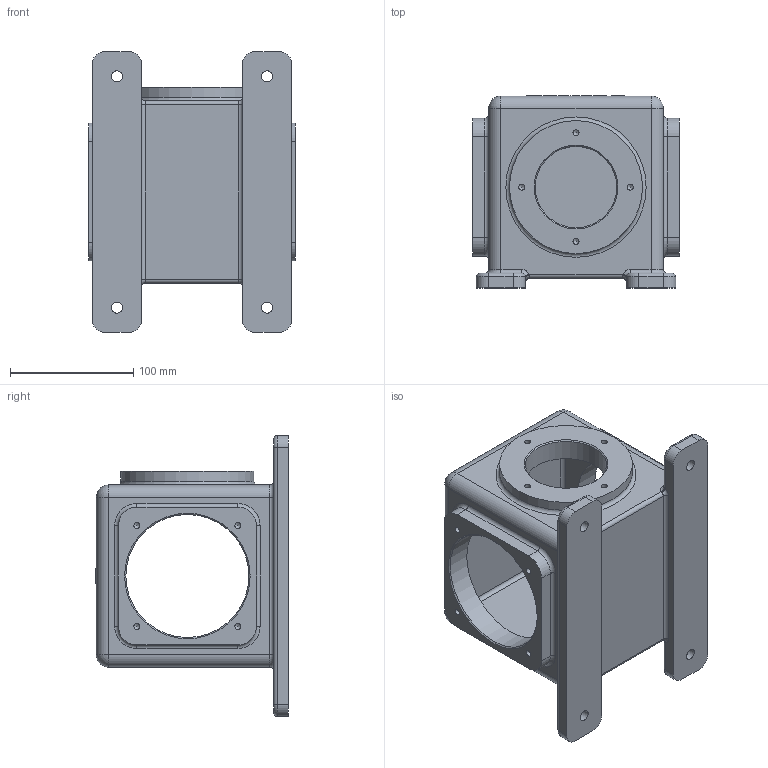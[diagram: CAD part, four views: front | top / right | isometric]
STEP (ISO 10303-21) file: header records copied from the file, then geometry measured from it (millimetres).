
FILE_DESCRIPTION(/* description */ (''),/* implementation_level */ '2;1');
FILE_NAME(/* name */ '',/* time_stamp */ '2026-04-23T11:15:19+09:00',/* author */ ('jhkim'),/* organization */ (''),/* preprocessor_version */ 'ST-DEVELOPER v20.1',/* originating_system */ 'Autodesk Inventor 2027',/* authorisation */ '');
FILE_SCHEMA (('AUTOMOTIVE_DESIGN { 1 0 10303 214 3 1 1 }'));
Length unit declared in the file: millimetre
Products named in the file (1): 본체
Bounding box: 168 x 156.5 x 228 mm (x, y, z)
Volume: 1010500.8 mm3; surface area: 246194.5 mm2
Topology: 1 solids, 1 shells, 380 faces, 952 edges, 600 vertices
Faces by surface type: plane 156, cylinder 88, bspline 80, torus 29, cone 15, sphere 12
Full cylindrical faces by diameter (mm): 4.917 x12, 9 x4, 24 x4, 66 x1, 100 x2, 108 x1
Entity records: 11526 total; most frequent: CARTESIAN_POINT 2815, ORIENTED_EDGE 1880, DIRECTION 1603, EDGE_CURVE 940, VERTEX_POINT 600, LINE 559, VECTOR 559, AXIS2_PLACEMENT_3D 522
